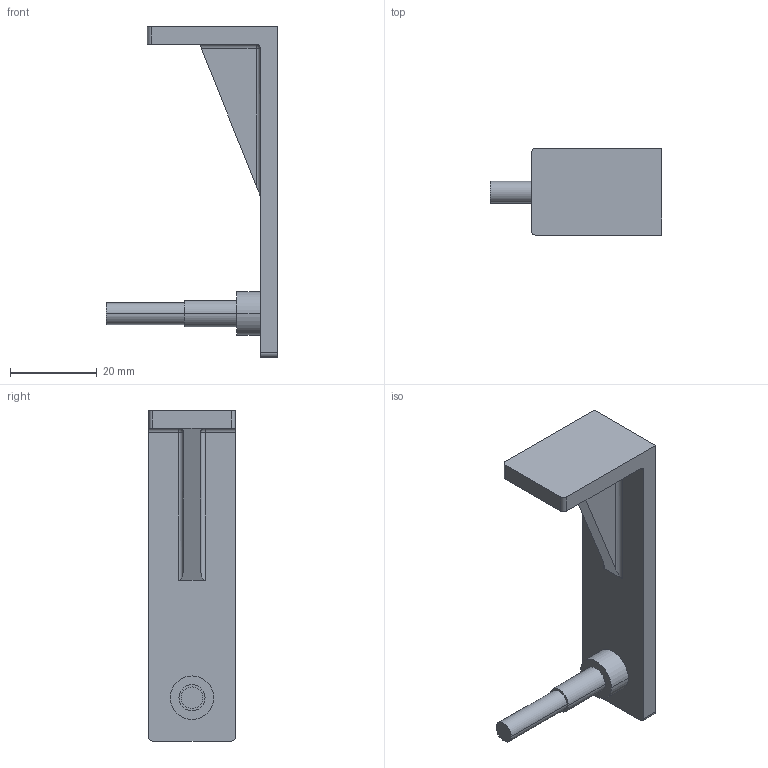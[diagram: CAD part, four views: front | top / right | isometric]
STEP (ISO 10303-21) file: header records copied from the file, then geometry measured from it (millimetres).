
FILE_DESCRIPTION(('CATIA V5 STEP Exchange'),'2;1');
FILE_NAME('C:\Users\Administrator\Desktop\GZ31.21_V1.stp','2021-06-05T03:42:17+00:00',('none'),('none'),'CATIA Version 5 Release 20 GA (IN-10)','CATIA V5 STEP AP214','none');
FILE_SCHEMA(('AUTOMOTIVE_DESIGN { 1 0 10303 214 1 1 1 1 }'));
Length unit declared in the file: millimetre
Products named in the file (3): 10; 3; Part365
Assembly tree (2 placements, depth 2):
  10
    3
    Part365
Bounding box: 39.5 x 20 x 76 mm (x, y, z)
Volume: 10275.2 mm3; surface area: 6370.5 mm2
Topology: 2 solids, 2 shells, 40 faces, 93 edges, 58 vertices
Faces by surface type: cylinder 20, plane 16, sphere 2, cone 2
Entity records: 1175 total; most frequent: CARTESIAN_POINT 237, ORIENTED_EDGE 182, DIRECTION 163, EDGE_CURVE 91, AXIS2_PLACEMENT_3D 76, VERTEX_POINT 58, VECTOR 49, LINE 49
